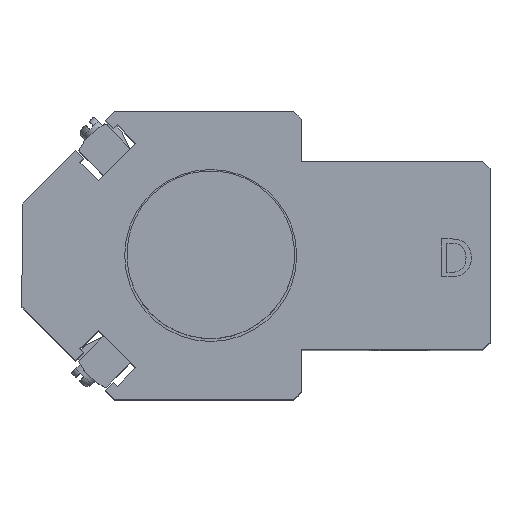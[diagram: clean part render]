
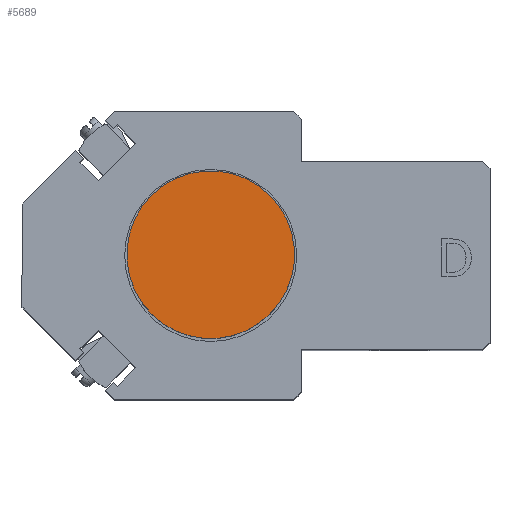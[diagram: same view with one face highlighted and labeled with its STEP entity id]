
A CAD part, top view. The second image highlights one B-rep face of the part: STEP entity #5689.
In plain terms, the highlighted planar face has unit normal (0, 0, 1) as drawn and (1, 0, 0) by its records, which use the part's own axes.
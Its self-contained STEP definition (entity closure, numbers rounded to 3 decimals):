
#499=PLANE('',#6499);
#786=FACE_OUTER_BOUND('',#1126,.T.);
#1126=EDGE_LOOP('',(#5274,#5275));
#2378=CIRCLE('',#6500,11.113);
#2379=CIRCLE('',#6501,11.113);
#2923=VERTEX_POINT('',#9972);
#2924=VERTEX_POINT('',#9973);
#3714=EDGE_CURVE('',#2923,#2924,#2378,.T.);
#3715=EDGE_CURVE('',#2924,#2923,#2379,.T.);
#5274=ORIENTED_EDGE('',*,*,#3714,.F.);
#5275=ORIENTED_EDGE('',*,*,#3715,.F.);
#5689=ADVANCED_FACE('',(#786),#499,.T.);
#6499=AXIS2_PLACEMENT_3D('',#9971,#8084,#8085);
#6500=AXIS2_PLACEMENT_3D('',#9974,#8086,#8087);
#6501=AXIS2_PLACEMENT_3D('',#9975,#8088,#8089);
#8084=DIRECTION('center_axis',(1.,0.,0.));
#8085=DIRECTION('ref_axis',(0.,0.,-1.));
#8086=DIRECTION('center_axis',(-1.,0.,0.));
#8087=DIRECTION('ref_axis',(0.,-1.,0.));
#8088=DIRECTION('center_axis',(-1.,0.,0.));
#8089=DIRECTION('ref_axis',(0.,-1.,0.));
#9971=CARTESIAN_POINT('Origin',(13.,-5.556,0.));
#9972=CARTESIAN_POINT('',(13.,-11.113,0.));
#9973=CARTESIAN_POINT('',(13.,11.113,0.));
#9974=CARTESIAN_POINT('Origin',(13.,0.,0.));
#9975=CARTESIAN_POINT('Origin',(13.,0.,0.));
